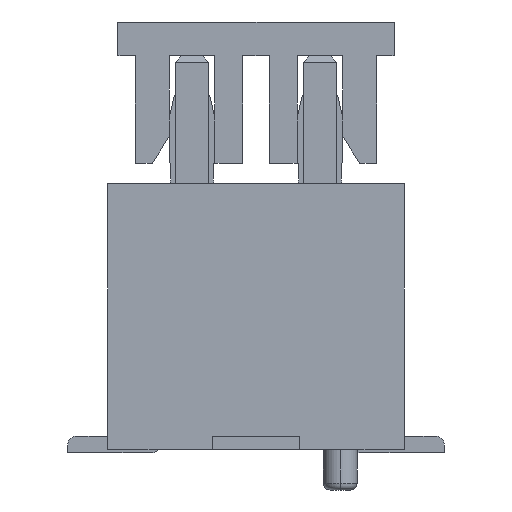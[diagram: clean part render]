
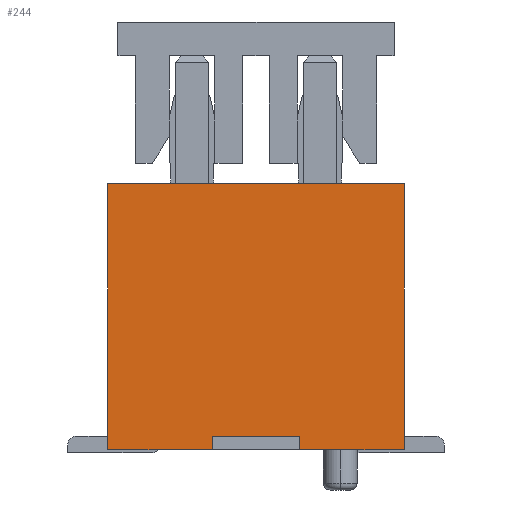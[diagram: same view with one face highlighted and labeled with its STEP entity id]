
A CAD part, left-side view. The second image highlights one B-rep face of the part: STEP entity #244.
In plain terms, the highlighted planar face has unit normal (-1, 0, 0).
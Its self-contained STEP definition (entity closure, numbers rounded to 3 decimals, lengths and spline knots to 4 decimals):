
#173=CARTESIAN_POINT('Axis2P3D Location',(-13.85,0.,0.)) ;
#178=CARTESIAN_POINT('Line Origine',(-13.85,0.65,0.1)) ;
#182=CARTESIAN_POINT('Vertex',(-13.85,0.65,0.)) ;
#184=CARTESIAN_POINT('Vertex',(-13.85,0.65,0.2)) ;
#187=CARTESIAN_POINT('Line Origine',(-13.85,0.,0.2)) ;
#191=CARTESIAN_POINT('Vertex',(-13.85,-0.65,0.2)) ;
#194=CARTESIAN_POINT('Line Origine',(-13.85,-0.65,0.1)) ;
#198=CARTESIAN_POINT('Vertex',(-13.85,-0.65,0.)) ;
#201=CARTESIAN_POINT('Line Origine',(-13.85,-1.425,0.)) ;
#205=CARTESIAN_POINT('Vertex',(-13.85,-2.2,0.)) ;
#208=CARTESIAN_POINT('Line Origine',(-13.85,-2.2,1.975)) ;
#212=CARTESIAN_POINT('Vertex',(-13.85,-2.2,3.95)) ;
#215=CARTESIAN_POINT('Line Origine',(-13.85,0.,3.95)) ;
#219=CARTESIAN_POINT('Vertex',(-13.85,2.2,3.95)) ;
#222=CARTESIAN_POINT('Line Origine',(-13.85,2.2,1.975)) ;
#226=CARTESIAN_POINT('Vertex',(-13.85,2.2,0.)) ;
#229=CARTESIAN_POINT('Line Origine',(-13.85,1.425,0.)) ;
#174=DIRECTION('Axis2P3D Direction',(1.,0.,0.)) ;
#175=DIRECTION('Axis2P3D XDirection',(0.,1.,0.)) ;
#179=DIRECTION('Vector Direction',(0.,0.,1.)) ;
#188=DIRECTION('Vector Direction',(0.,1.,0.)) ;
#195=DIRECTION('Vector Direction',(0.,0.,1.)) ;
#202=DIRECTION('Vector Direction',(0.,1.,0.)) ;
#209=DIRECTION('Vector Direction',(0.,0.,-1.)) ;
#216=DIRECTION('Vector Direction',(0.,1.,0.)) ;
#223=DIRECTION('Vector Direction',(0.,0.,-1.)) ;
#230=DIRECTION('Vector Direction',(0.,1.,0.)) ;
#176=AXIS2_PLACEMENT_3D('Plane Axis2P3D',#173,#174,#175) ;
#235=ORIENTED_EDGE('',*,*,#186,.T.) ;
#236=ORIENTED_EDGE('',*,*,#193,.F.) ;
#237=ORIENTED_EDGE('',*,*,#200,.F.) ;
#238=ORIENTED_EDGE('',*,*,#207,.F.) ;
#239=ORIENTED_EDGE('',*,*,#214,.F.) ;
#240=ORIENTED_EDGE('',*,*,#221,.F.) ;
#241=ORIENTED_EDGE('',*,*,#228,.F.) ;
#242=ORIENTED_EDGE('',*,*,#233,.F.) ;
#180=VECTOR('Line Direction',#179,1.) ;
#189=VECTOR('Line Direction',#188,1.) ;
#196=VECTOR('Line Direction',#195,1.) ;
#203=VECTOR('Line Direction',#202,1.) ;
#210=VECTOR('Line Direction',#209,1.) ;
#217=VECTOR('Line Direction',#216,1.) ;
#224=VECTOR('Line Direction',#223,1.) ;
#231=VECTOR('Line Direction',#230,1.) ;
#244=ADVANCED_FACE('\X2\96F64EF651E04F554F53\X0\',(#243),#177,.F.) ;
#186=EDGE_CURVE('',#183,#185,#181,.T.) ;
#193=EDGE_CURVE('',#192,#185,#190,.T.) ;
#200=EDGE_CURVE('',#199,#192,#197,.T.) ;
#207=EDGE_CURVE('',#206,#199,#204,.T.) ;
#214=EDGE_CURVE('',#213,#206,#211,.T.) ;
#221=EDGE_CURVE('',#220,#213,#218,.F.) ;
#228=EDGE_CURVE('',#227,#220,#225,.F.) ;
#233=EDGE_CURVE('',#183,#227,#232,.T.) ;
#234=EDGE_LOOP('',(#235,#236,#237,#238,#239,#240,#241,#242)) ;
#243=FACE_OUTER_BOUND('',#234,.T.) ;
#181=LINE('Line',#178,#180) ;
#190=LINE('Line',#187,#189) ;
#197=LINE('Line',#194,#196) ;
#204=LINE('Line',#201,#203) ;
#211=LINE('Line',#208,#210) ;
#218=LINE('Line',#215,#217) ;
#225=LINE('Line',#222,#224) ;
#232=LINE('Line',#229,#231) ;
#177=PLANE('Plane',#176) ;
#183=VERTEX_POINT('',#182) ;
#185=VERTEX_POINT('',#184) ;
#192=VERTEX_POINT('',#191) ;
#199=VERTEX_POINT('',#198) ;
#206=VERTEX_POINT('',#205) ;
#213=VERTEX_POINT('',#212) ;
#220=VERTEX_POINT('',#219) ;
#227=VERTEX_POINT('',#226) ;
